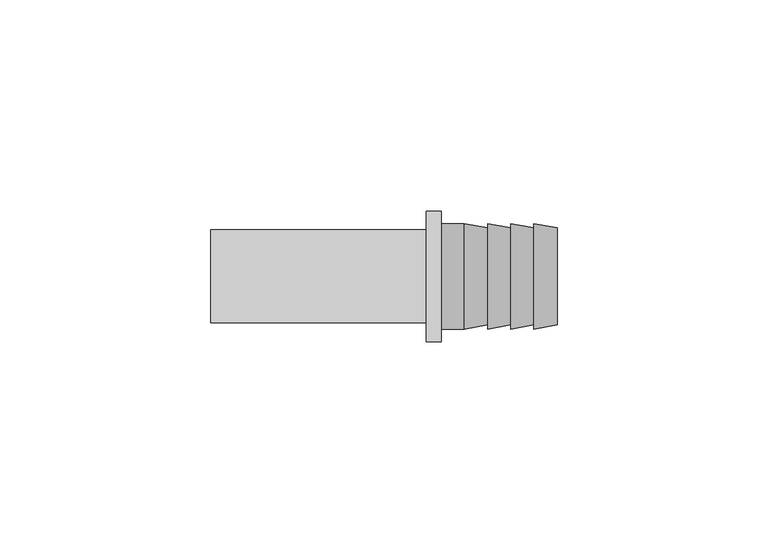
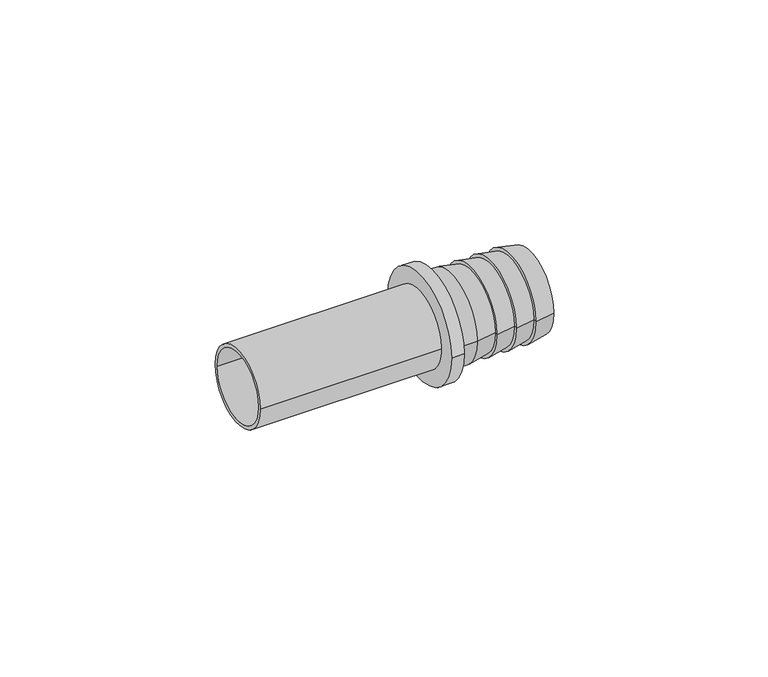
"""IFC4 building model written with IfcOpenShell, lengths in millimetres: pipe fitting geometry, VALTEC_VTi.909.I_Вставка с переходом на аксиальное соединение : VTi.909.I."""

from ifc_helpers import new_model, si_unit, point, frame, origin, origin_2d, place, context, project, spatial, polyline, circle_curve, trimmed, segment, composite_curve, outline, extrude, source, transform, mapped, element, save
from ifc_brep_helpers import plane_surface, cylinder_surface, revolved_surface, advanced_brep


def pipe_fitting_54cfb07b(model_context):
    return source(origin(), model_context, "Body", "SolidModel", [
        advanced_brep(
        [(60.056, -12.5, 0.0), (60.056, 12.5, 0.0), (65.542, 11.5, 0.0), (65.542, -11.5, 0.0), (54.57, -12.5, 0.0), (54.57, 12.5, 0.0), (54.57, -10.0, 0.0), (54.57, 10.0, 0.0), (82.0, -11.5, 0.0), (82.0, 11.5, 0.0), (82.0, 10.0, 0.0), (82.0, -10.0, 0.0), (76.514, -12.5, 0.0), (76.514, 12.5, 0.0), (76.514, -11.5, 0.0), (76.514, 11.5, 0.0), (71.028, -12.5, 0.0), (71.028, 12.5, 0.0), (71.028, -11.5, 0.0), (71.028, 11.5, 0.0), (65.542, -12.5, 0.0), (65.542, 12.5, 0.0)],
        [
            (0, 1, circle_curve(frame((60.056, 0.0, 0.0), z_axis=(1.0, 0.0, 0.0), x_axis=(0.0, 1.0, 0.0)), 12.5)),
            (1, 2),
            (2, 3, circle_curve(frame((65.542, 0.0, 0.0), z_axis=(-1.0, 0.0, 0.0), x_axis=(0.0, 1.0, 0.0)), 11.5)),
            (3, 0),
            (1, 0, circle_curve(frame((60.056, 0.0, 0.0), z_axis=(1.0, 0.0, 0.0), x_axis=(0.0, 1.0, 0.0)), 12.5)),
            (3, 2, circle_curve(frame((65.542, 0.0, 0.0), z_axis=(-1.0, 0.0, 0.0), x_axis=(0.0, 1.0, 0.0)), 11.5)),
            (4, 5, circle_curve(frame((54.57, 0.0, 0.0), z_axis=(1.0, 0.0, 0.0), x_axis=(0.0, 1.0, 0.0)), 12.5)),
            (5, 1),
            (0, 4),
            (5, 4, circle_curve(frame((54.57, 0.0, 0.0), z_axis=(1.0, 0.0, 0.0), x_axis=(0.0, 1.0, 0.0)), 12.5)),
            (6, 7, circle_curve(frame((54.57, 0.0, 0.0), z_axis=(1.0, 0.0, 0.0), x_axis=(0.0, 1.0, 0.0)), 10.0)),
            (7, 5),
            (4, 6),
            (7, 6, circle_curve(frame((54.57, 0.0, 0.0), z_axis=(1.0, 0.0, 0.0), x_axis=(0.0, 1.0, 0.0)), 10.0)),
            (8, 9, circle_curve(frame((82.0, 0.0, 0.0), z_axis=(1.0, 0.0, 0.0), x_axis=(0.0, 1.0, 0.0)), 11.5)),
            (9, 10),
            (10, 11, circle_curve(frame((82.0, 0.0, 0.0), z_axis=(-1.0, 0.0, 0.0), x_axis=(0.0, 1.0, 0.0)), 10.0)),
            (11, 8),
            (9, 8, circle_curve(frame((82.0, 0.0, 0.0), z_axis=(1.0, 0.0, 0.0), x_axis=(0.0, 1.0, 0.0)), 11.5)),
            (11, 10, circle_curve(frame((82.0, 0.0, 0.0), z_axis=(-1.0, 0.0, 0.0), x_axis=(0.0, 1.0, 0.0)), 10.0)),
            (12, 13, circle_curve(frame((76.514, 0.0, 0.0), z_axis=(1.0, 0.0, 0.0), x_axis=(0.0, 1.0, 0.0)), 12.5)),
            (13, 9),
            (8, 12),
            (13, 12, circle_curve(frame((76.514, 0.0, 0.0), z_axis=(1.0, 0.0, 0.0), x_axis=(0.0, 1.0, 0.0)), 12.5)),
            (14, 15, circle_curve(frame((76.514, 0.0, 0.0), z_axis=(1.0, 0.0, 0.0), x_axis=(0.0, 1.0, 0.0)), 11.5)),
            (15, 13),
            (12, 14),
            (15, 14, circle_curve(frame((76.514, 0.0, 0.0), z_axis=(1.0, 0.0, 0.0), x_axis=(0.0, 1.0, 0.0)), 11.5)),
            (16, 17, circle_curve(frame((71.028, 0.0, 0.0), z_axis=(1.0, 0.0, 0.0), x_axis=(0.0, 1.0, 0.0)), 12.5)),
            (17, 15),
            (14, 16),
            (17, 16, circle_curve(frame((71.028, 0.0, 0.0), z_axis=(1.0, 0.0, 0.0), x_axis=(0.0, 1.0, 0.0)), 12.5)),
            (18, 19, circle_curve(frame((71.028, 0.0, 0.0), z_axis=(1.0, 0.0, 0.0), x_axis=(0.0, 1.0, 0.0)), 11.5)),
            (19, 17),
            (16, 18),
            (19, 18, circle_curve(frame((71.028, 0.0, 0.0), z_axis=(1.0, 0.0, 0.0), x_axis=(0.0, 1.0, 0.0)), 11.5)),
            (20, 21, circle_curve(frame((65.542, 0.0, 0.0), z_axis=(1.0, 0.0, 0.0), x_axis=(0.0, 1.0, 0.0)), 12.5)),
            (21, 19),
            (18, 20),
            (21, 20, circle_curve(frame((65.542, 0.0, 0.0), z_axis=(1.0, 0.0, 0.0), x_axis=(0.0, 1.0, 0.0)), 12.5)),
            (2, 21),
            (20, 3),
            (10, 7),
            (6, 11),
        ],
        [
            revolved_surface(polyline([(65.542, 11.5, 0.0), (60.056, 12.5, 0.0)]), (80.6579616, 0.0, 0.0), (-1.0, 0.0, 0.0)),
            cylinder_surface(frame((80.6579616, 0.0, 0.0), z_axis=(-1.0, 0.0, 0.0), x_axis=(0.0, 1.0, 0.0)), 12.5),
            plane_surface(frame((54.57, 0.0, 0.0), z_axis=(-1.0, 0.0, 0.0), x_axis=(0.0, 1.0, 0.0))),
            plane_surface(frame((82.0, 0.0, 0.0), z_axis=(1.0, 0.0, 0.0), x_axis=(0.0, 1.0, 0.0))),
            revolved_surface(polyline([(82.0, 11.5, 0.0), (76.514, 12.5, 0.0)]), (80.6579616, 0.0, 0.0), (-1.0, 0.0, 0.0)),
            plane_surface(frame((76.514, 0.0, 0.0), z_axis=(-1.0, 0.0, 0.0), x_axis=(0.0, 1.0, 0.0))),
            revolved_surface(polyline([(76.514, 11.5, 0.0), (71.028, 12.5, 0.0)]), (80.6579616, 0.0, 0.0), (-1.0, 0.0, 0.0)),
            plane_surface(frame((71.028, 0.0, 0.0), z_axis=(-1.0, 0.0, 0.0), x_axis=(0.0, 1.0, 0.0))),
            revolved_surface(polyline([(71.028, 11.5, 0.0), (65.542, 12.5, 0.0)]), (80.6579616, 0.0, 0.0), (-1.0, 0.0, 0.0)),
            plane_surface(frame((65.542, 0.0, 0.0), z_axis=(-1.0, 0.0, 0.0), x_axis=(0.0, 1.0, 0.0))),
            revolved_surface(polyline([(54.57, 10.0, 0.0), (82.0, 10.0, 0.0)]), (80.6579616, 0.0, 0.0), (-1.0, 0.0, 0.0)),
        ],
        [
            (0, [[1, 2, 3, 4]]),
            (0, [[5, -4, 6, -2]]),
            (1, [[7, 8, -1, 9]]),
            (1, [[10, -9, -5, -8]]),
            (2, [[11, 12, -7, 13]]),
            (2, [[14, -13, -10, -12]]),
            (3, [[15, 16, 17, 18]]),
            (3, [[19, -18, 20, -16]]),
            (4, [[21, 22, -15, 23]]),
            (4, [[24, -23, -19, -22]]),
            (5, [[25, 26, -21, 27]]),
            (5, [[28, -27, -24, -26]]),
            (6, [[29, 30, -25, 31]]),
            (6, [[32, -31, -28, -30]]),
            (7, [[33, 34, -29, 35]]),
            (7, [[36, -35, -32, -34]]),
            (8, [[37, 38, -33, 39]]),
            (8, [[40, -39, -36, -38]]),
            (9, [[-3, 41, -37, 42]]),
            (9, [[-6, -42, -40, -41]]),
            (10, [[-17, 43, -11, 44]]),
            (10, [[-20, -44, -14, -43]]),
        ],
    ),
        extrude(outline(composite_curve([segment(trimmed(circle_curve(origin_2d(), 15.5), [point((-15.5, 0.0))], [point((15.5, 0.0))], False, "CARTESIAN"), True, "CONTINUOUS"), segment(trimmed(circle_curve(origin_2d(), 15.5), [point((15.5, 0.0))], [point((-15.5, 0.0))], False, "CARTESIAN"), True, "CONTINUOUS")], self_intersect=False), holes=[composite_curve([segment(trimmed(circle_curve(origin_2d(), 10.0), [point((-10.0, 0.0))], [point((10.0, 0.0))], True, "CARTESIAN"), True, "CONTINUOUS"), segment(trimmed(circle_curve(origin_2d(), 10.0), [point((10.0, 0.0))], [point((-10.0, 0.0))], True, "CARTESIAN"), True, "CONTINUOUS")], self_intersect=False)]), frame((51.0, 0.0, 0.0), z_axis=(1.0, 0.0, 0.0), x_axis=(0.0, 1.0, 0.0)), (0.0, 0.0, 1.0), 3.57),
        extrude(outline(composite_curve([segment(trimmed(circle_curve(origin_2d(), 11.0), [point((-11.0, 0.0))], [point((11.0, 0.0))], False, "CARTESIAN"), True, "CONTINUOUS"), segment(trimmed(circle_curve(origin_2d(), 11.0), [point((11.0, 0.0))], [point((-11.0, 0.0))], False, "CARTESIAN"), True, "CONTINUOUS")], self_intersect=False), holes=[composite_curve([segment(trimmed(circle_curve(origin_2d(), 10.0), [point((-10.0, 0.0))], [point((10.0, 0.0))], True, "CARTESIAN"), True, "CONTINUOUS"), segment(trimmed(circle_curve(origin_2d(), 10.0), [point((10.0, 0.0))], [point((-10.0, 0.0))], True, "CARTESIAN"), True, "CONTINUOUS")], self_intersect=False)]), frame((0.0, 0.0, 0.0), z_axis=(1.0, 0.0, 0.0), x_axis=(0.0, 1.0, 0.0)), (0.0, 0.0, 1.0), 51.0),
    ])


if __name__ == "__main__":
    model = new_model("IFC4")
    model_context = context("Model", 3, world=origin())
    ifc_project = project(units=[si_unit("LENGTHUNIT", "METRE", prefix="MILLI")], contexts=[model_context])
    site = spatial("IfcSite", under=ifc_project)
    building = spatial("IfcBuilding", under=site)
    placement = place(None, origin())
    pipe_fitting_shape = pipe_fitting_54cfb07b(model_context)
    element("IfcPipeFitting", 1, ObjectType="VALTEC_VTi.909.I_Вставка с переходом на аксиальное соединение : VTi.909.I", at=placement, inside=building, context=model_context, shape_type="MappedRepresentation", body=[
        mapped(pipe_fitting_shape, transform((0.0, 0.0, 0.0), x_axis=(1.0, 0.0, 0.0), y_axis=(0.0, 1.0, 0.0), z_axis=(0.0, 0.0, 1.0))),
    ])
    save(model, "model.ifc")
